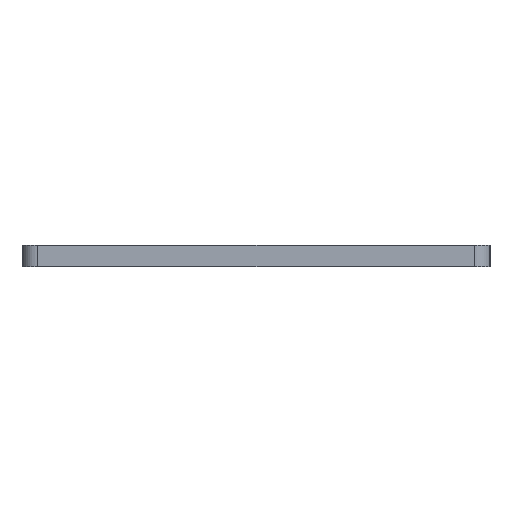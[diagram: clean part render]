
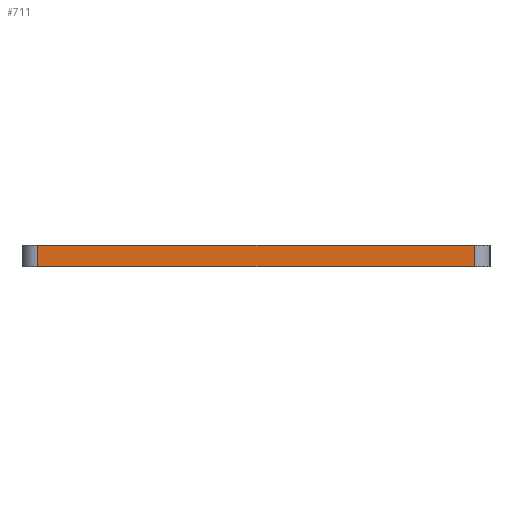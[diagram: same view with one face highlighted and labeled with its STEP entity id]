
A CAD part, left-side view. The second image highlights one B-rep face of the part: STEP entity #711.
In plain terms, the highlighted planar face has unit normal (-1, 0, 0).
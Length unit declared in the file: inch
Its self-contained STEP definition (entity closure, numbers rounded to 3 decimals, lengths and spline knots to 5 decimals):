
#33=DIRECTION('',(0.,-1.,0.));
#34=VECTOR('',#33,3.23378);
#35=CARTESIAN_POINT('',(-6.99902,1.61689,0.));
#36=LINE('',#35,#34);
#159=DIRECTION('',(0.,0.,1.));
#160=VECTOR('',#159,0.15748);
#161=CARTESIAN_POINT('',(-6.99902,1.61689,
-0.15748));
#162=LINE('',#161,#160);
#163=DIRECTION('',(0.,0.,1.));
#164=VECTOR('',#163,0.15748);
#165=CARTESIAN_POINT('',(-6.99902,-1.61689,
-0.15748));
#166=LINE('',#165,#164);
#196=DIRECTION('',(0.,-1.,0.));
#197=VECTOR('',#196,3.23378);
#198=CARTESIAN_POINT('',(-6.99902,1.61689,
-0.15748));
#199=LINE('',#198,#197);
#534=CARTESIAN_POINT('',(-6.99902,1.61689,0.));
#536=VERTEX_POINT('',#534);
#537=CARTESIAN_POINT('',(-6.99902,1.61689,
-0.15748));
#538=VERTEX_POINT('',#537);
#541=CARTESIAN_POINT('',(-6.99902,-1.61689,0.));
#543=VERTEX_POINT('',#541);
#547=CARTESIAN_POINT('',(-6.99902,-1.61689,
-0.15748));
#548=VERTEX_POINT('',#547);
#698=CARTESIAN_POINT('',(-6.99902,0.,-0.07874));
#699=DIRECTION('',(-1.,0.,0.));
#700=DIRECTION('',(0.,-1.,0.));
#701=AXIS2_PLACEMENT_3D('',#698,#699,#700);
#702=PLANE('',#701);
#703=ORIENTED_EDGE('',*,*,#689,.T.);
#704=ORIENTED_EDGE('',*,*,#608,.T.);
#706=ORIENTED_EDGE('',*,*,#705,.F.);
#708=ORIENTED_EDGE('',*,*,#707,.F.);
#709=EDGE_LOOP('',(#703,#704,#706,#708));
#710=FACE_OUTER_BOUND('',#709,.F.);
#711=ADVANCED_FACE('',(#710),#702,.T.);
#608=EDGE_CURVE('',#536,#543,#36,.T.);
#689=EDGE_CURVE('',#538,#536,#162,.T.);
#705=EDGE_CURVE('',#548,#543,#166,.T.);
#707=EDGE_CURVE('',#538,#548,#199,.T.);
